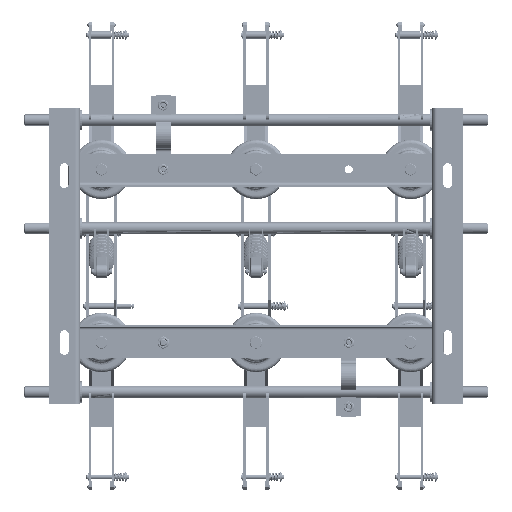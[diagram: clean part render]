
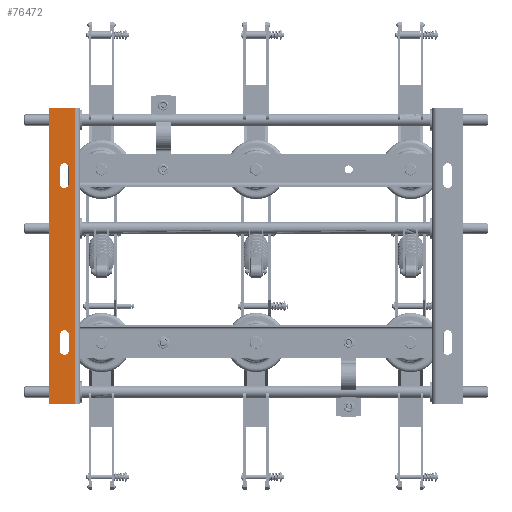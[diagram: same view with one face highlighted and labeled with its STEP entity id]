
A CAD part, front view. The second image highlights one B-rep face of the part: STEP entity #76472.
In plain terms, the highlighted planar face has unit normal (0, -1, 0).
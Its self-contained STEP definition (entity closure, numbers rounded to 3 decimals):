
#1277 = CARTESIAN_POINT ( 'NONE',  ( -302.999, 0.004, -148.003 ) ) ;
#3240 = AXIS2_PLACEMENT_3D ( 'NONE', #144082, #68285, #156837 ) ;
#4041 = VERTEX_POINT ( 'NONE', #33860 ) ;
#5910 = EDGE_CURVE ( 'NONE', #97641, #11272, #39906, .T. ) ;
#5920 = DIRECTION ( 'NONE',  ( 0., 0., 1. ) ) ;
#8619 = DIRECTION ( 'NONE',  ( 0., 0., 1. ) ) ;
#8776 = DIRECTION ( 'NONE',  ( -1., 0., 0. ) ) ;
#8779 = AXIS2_PLACEMENT_3D ( 'NONE', #160543, #84615, #8776 ) ;
#9046 = ORIENTED_EDGE ( 'NONE', *, *, #142640, .T. ) ;
#10682 = CARTESIAN_POINT ( 'NONE',  ( -292.995, 0.004, -235.021 ) ) ;
#11272 = VERTEX_POINT ( 'NONE', #25789 ) ;
#11306 = VECTOR ( 'NONE', #147025, 1000. ) ;
#12799 = VERTEX_POINT ( 'NONE', #105424 ) ;
#16826 = CIRCLE ( 'NONE', #8779, 7. ) ;
#17142 = EDGE_CURVE ( 'NONE', #146034, #12799, #42504, .T. ) ;
#17530 = ORIENTED_EDGE ( 'NONE', *, *, #60684, .T. ) ;
#19773 = EDGE_CURVE ( 'NONE', #92719, #146034, #92602, .T. ) ;
#20542 = CARTESIAN_POINT ( 'NONE',  ( -334.999, 0.004, -235.021 ) ) ;
#21981 = ORIENTED_EDGE ( 'NONE', *, *, #100708, .T. ) ;
#24450 = CARTESIAN_POINT ( 'NONE',  ( -302.999, 0.004, -122.003 ) ) ;
#25096 = DIRECTION ( 'NONE',  ( 0., 1., 0. ) ) ;
#25234 = VECTOR ( 'NONE', #73783, 1000. ) ;
#25789 = CARTESIAN_POINT ( 'NONE',  ( -316.999, 0.004, 121.997 ) ) ;
#26034 = AXIS2_PLACEMENT_3D ( 'NONE', #100974, #25096, #113723 ) ;
#29664 = ORIENTED_EDGE ( 'NONE', *, *, #95507, .T. ) ;
#31387 = PLANE ( 'NONE',  #162773 ) ;
#32373 = CARTESIAN_POINT ( 'NONE',  ( -302.999, 0.004, 147.997 ) ) ;
#33860 = CARTESIAN_POINT ( 'NONE',  ( -316.999, 0.004, 147.997 ) ) ;
#35795 = FACE_BOUND ( 'NONE', #82498, .T. ) ;
#36735 = LINE ( 'NONE', #160386, #66551 ) ;
#37202 = DIRECTION ( 'NONE',  ( 0., 0., -1. ) ) ;
#39152 = VERTEX_POINT ( 'NONE', #32373 ) ;
#39906 = CIRCLE ( 'NONE', #3240, 7. ) ;
#40871 = ORIENTED_EDGE ( 'NONE', *, *, #17142, .F. ) ;
#41038 = CARTESIAN_POINT ( 'NONE',  ( -302.999, 0.004, 121.997 ) ) ;
#41112 = EDGE_LOOP ( 'NONE', ( #93902, #41927, #17530, #29664 ) ) ;
#41927 = ORIENTED_EDGE ( 'NONE', *, *, #153702, .T. ) ;
#42504 = LINE ( 'NONE', #20542, #76138 ) ;
#44665 = DIRECTION ( 'NONE',  ( 0., 1., 0. ) ) ;
#52803 = DIRECTION ( 'NONE',  ( 0., 1., 0. ) ) ;
#53674 = CARTESIAN_POINT ( 'NONE',  ( -316.999, 0.004, -122.003 ) ) ;
#55578 = EDGE_CURVE ( 'NONE', #12799, #101023, #138193, .T. ) ;
#55583 = LINE ( 'NONE', #138781, #89204 ) ;
#58253 = DIRECTION ( 'NONE',  ( 0., 0., 1. ) ) ;
#59073 = CARTESIAN_POINT ( 'NONE',  ( -292.995, 0.004, -235.021 ) ) ;
#59369 = CARTESIAN_POINT ( 'NONE',  ( -302.999, 0.004, -122.003 ) ) ;
#60073 = VERTEX_POINT ( 'NONE', #112816 ) ;
#60684 = EDGE_CURVE ( 'NONE', #69668, #128957, #113669, .T. ) ;
#61238 = ORIENTED_EDGE ( 'NONE', *, *, #5910, .T. ) ;
#66551 = VECTOR ( 'NONE', #8619, 1000. ) ;
#68285 = DIRECTION ( 'NONE',  ( 0., 1., 0. ) ) ;
#69554 = FACE_BOUND ( 'NONE', #41112, .T. ) ;
#69668 = VERTEX_POINT ( 'NONE', #53674 ) ;
#73783 = DIRECTION ( 'NONE',  ( -1., 0., 0. ) ) ;
#76138 = VECTOR ( 'NONE', #58253, 1000. ) ;
#76472 = ADVANCED_FACE ( 'NONE', ( #140880, #35795, #69554 ), #31387, .F. ) ;
#78803 = CARTESIAN_POINT ( 'NONE',  ( -292.995, 0.004, 244.979 ) ) ;
#82498 = EDGE_LOOP ( 'NONE', ( #61238, #9046, #123113, #135000 ) ) ;
#83031 = CIRCLE ( 'NONE', #158134, 7. ) ;
#84615 = DIRECTION ( 'NONE',  ( 0., 1., 0. ) ) ;
#87229 = DIRECTION ( 'NONE',  ( 0., 0., 1. ) ) ;
#89204 = VECTOR ( 'NONE', #87229, 1000. ) ;
#91895 = LINE ( 'NONE', #133339, #159312 ) ;
#92213 = ORIENTED_EDGE ( 'NONE', *, *, #19773, .F. ) ;
#92602 = LINE ( 'NONE', #10682, #25234 ) ;
#92719 = VERTEX_POINT ( 'NONE', #59073 ) ;
#93902 = ORIENTED_EDGE ( 'NONE', *, *, #102849, .T. ) ;
#95507 = EDGE_CURVE ( 'NONE', #128957, #120340, #102566, .T. ) ;
#97641 = VERTEX_POINT ( 'NONE', #41038 ) ;
#100708 = EDGE_CURVE ( 'NONE', #92719, #101023, #91895, .T. ) ;
#100974 = CARTESIAN_POINT ( 'NONE',  ( -309.999, 0.004, -122.003 ) ) ;
#101023 = VERTEX_POINT ( 'NONE', #78803 ) ;
#102566 = LINE ( 'NONE', #24450, #136306 ) ;
#102849 = EDGE_CURVE ( 'NONE', #120340, #60073, #83031, .T. ) ;
#105424 = CARTESIAN_POINT ( 'NONE',  ( -334.999, 0.004, 244.979 ) ) ;
#109498 = ORIENTED_EDGE ( 'NONE', *, *, #55578, .F. ) ;
#111506 = CARTESIAN_POINT ( 'NONE',  ( -334.999, 0.004, -235.021 ) ) ;
#111676 = CARTESIAN_POINT ( 'NONE',  ( -302.999, 0.004, 147.997 ) ) ;
#112816 = CARTESIAN_POINT ( 'NONE',  ( -316.999, 0.004, -148.003 ) ) ;
#113032 = EDGE_CURVE ( 'NONE', #39152, #97641, #123615, .T. ) ;
#113669 = CIRCLE ( 'NONE', #26034, 7. ) ;
#113723 = DIRECTION ( 'NONE',  ( -1., 0., 0. ) ) ;
#120340 = VERTEX_POINT ( 'NONE', #1277 ) ;
#120514 = CARTESIAN_POINT ( 'NONE',  ( -336.199, 0.004, 4.979 ) ) ;
#123113 = ORIENTED_EDGE ( 'NONE', *, *, #149180, .T. ) ;
#123615 = LINE ( 'NONE', #111676, #153355 ) ;
#124393 = DIRECTION ( 'NONE',  ( 0., 0., -1. ) ) ;
#128665 = CARTESIAN_POINT ( 'NONE',  ( -309.999, 0.004, -148.003 ) ) ;
#128957 = VERTEX_POINT ( 'NONE', #59369 ) ;
#133325 = DIRECTION ( 'NONE',  ( 1., 0., 0. ) ) ;
#133339 = CARTESIAN_POINT ( 'NONE',  ( -292.995, 0.004, -235.021 ) ) ;
#134345 = CARTESIAN_POINT ( 'NONE',  ( -334.999, 0.004, 244.979 ) ) ;
#135000 = ORIENTED_EDGE ( 'NONE', *, *, #113032, .T. ) ;
#136306 = VECTOR ( 'NONE', #37202, 1000. ) ;
#138193 = LINE ( 'NONE', #134345, #11306 ) ;
#138781 = CARTESIAN_POINT ( 'NONE',  ( -316.999, 0.004, 121.997 ) ) ;
#140880 = FACE_OUTER_BOUND ( 'NONE', #157718, .T. ) ;
#141420 = DIRECTION ( 'NONE',  ( 1., 0., 0. ) ) ;
#142640 = EDGE_CURVE ( 'NONE', #11272, #4041, #55583, .T. ) ;
#144082 = CARTESIAN_POINT ( 'NONE',  ( -309.999, 0.004, 121.997 ) ) ;
#146034 = VERTEX_POINT ( 'NONE', #111506 ) ;
#147025 = DIRECTION ( 'NONE',  ( 1., 0., 0. ) ) ;
#149180 = EDGE_CURVE ( 'NONE', #4041, #39152, #16826, .T. ) ;
#153355 = VECTOR ( 'NONE', #124393, 1000. ) ;
#153702 = EDGE_CURVE ( 'NONE', #60073, #69668, #36735, .T. ) ;
#156837 = DIRECTION ( 'NONE',  ( 1., 0., 0. ) ) ;
#157718 = EDGE_LOOP ( 'NONE', ( #21981, #109498, #40871, #92213 ) ) ;
#158134 = AXIS2_PLACEMENT_3D ( 'NONE', #128665, #52803, #141420 ) ;
#159312 = VECTOR ( 'NONE', #5920, 1000. ) ;
#160386 = CARTESIAN_POINT ( 'NONE',  ( -316.999, 0.004, -148.003 ) ) ;
#160543 = CARTESIAN_POINT ( 'NONE',  ( -309.999, 0.004, 147.997 ) ) ;
#162773 = AXIS2_PLACEMENT_3D ( 'NONE', #120514, #44665, #133325 ) ;
